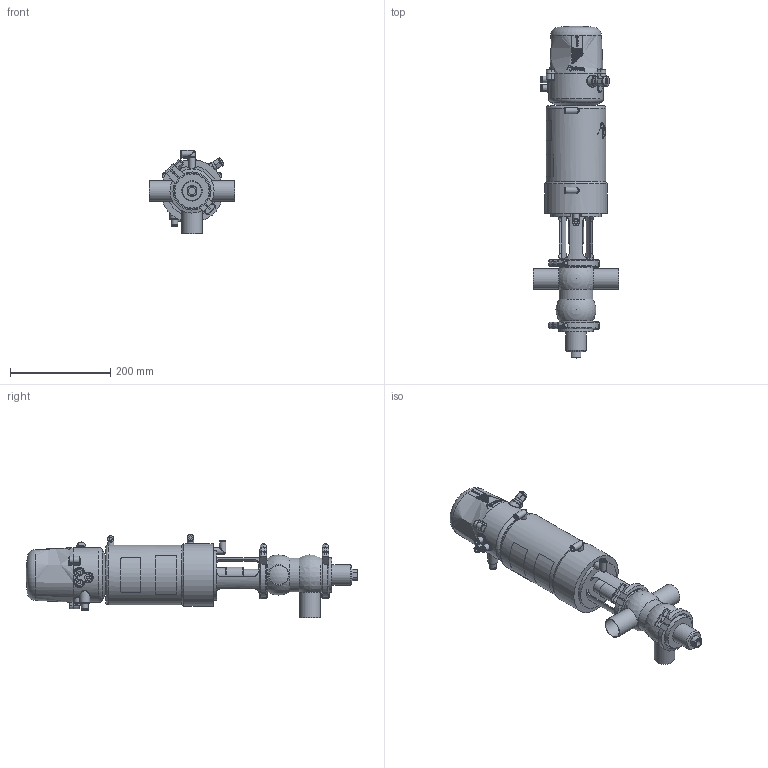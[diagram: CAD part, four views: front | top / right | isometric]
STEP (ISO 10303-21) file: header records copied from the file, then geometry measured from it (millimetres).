
FILE_DESCRIPTION (( 'STEP AP214' ), '1' );
FILE_NAME ('INNOVA P AB-90 W DIN 040 & C-TOP S_10.250.16.0011.STEP', '2024-08-09T12:25:51', ( '' ), ( '' ), 'SwSTEP 2.0', 'SolidWorks 2023', '' );
FILE_SCHEMA (( 'AUTOMOTIVE_DESIGN' ));
Length unit declared in the file: millimetre
Products named in the file (7): 10.250.15.0002_Type P T1; 10.240.15.0001_DN 040; 10.251.15.0003_DIN 040; 10.250.15.0001_DIN 040; INNOVA P AB-90 W DIN 040 & C-TOP S_10.250.16.0011; 10.250.15.0003_DN 040; 10.426.15.0001_C-TOP S - 3 EV
Assembly tree (7 placements, depth 2):
  INNOVA P AB-90 W DIN 040 & C-TOP S_10.250.16.0011
    10.250.15.0001_DIN 040
    10.250.15.0002_Type P T1
    10.426.15.0001_C-TOP S - 3 EV
    10.251.15.0003_DIN 040
    10.240.15.0001_DN 040  x2
    10.250.15.0003_DN 040
Bounding box: 170 x 662 x 166 mm (x, y, z)
Volume: 4781119 mm3; surface area: 368873.7 mm2
Topology: 7 solids, 7 shells, 1207 faces, 2906 edges, 1931 vertices
Faces by surface type: plane 414, cylinder 385, cone 203, bspline 163, torus 33, sphere 9
Full cylindrical faces by diameter (mm): 0.371 x17, 0.512 x16, 0.658 x16, 0.795 x16, 0.94 x15, 1.098 x15, 1.241 x13, 1.382 x13, 1.523 x11, 1.669 x10, 2.201 x1, 4.2 x2, 5 x1, 5.5 x2, 6 x4, 6.15 x3, 8 x5, 10 x1, 10.5 x3, 11 x4, 12.5 x9, 13 x6, 13.5 x2, 14 x1, 17 x3, 20 x2, 22 x2, 23 x1, 28 x1, 31.5 x1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
Entity records: 59107 total; most frequent: CARTESIAN_POINT 27678, ORIENTED_EDGE 4616, DIRECTION 3765, EDGE_CURVE 2308, VERTEX_POINT 1645, EDGE_LOOP 1629, AXIS2_PLACEMENT_3D 1549, FACE_OUTER_BOUND 1376
